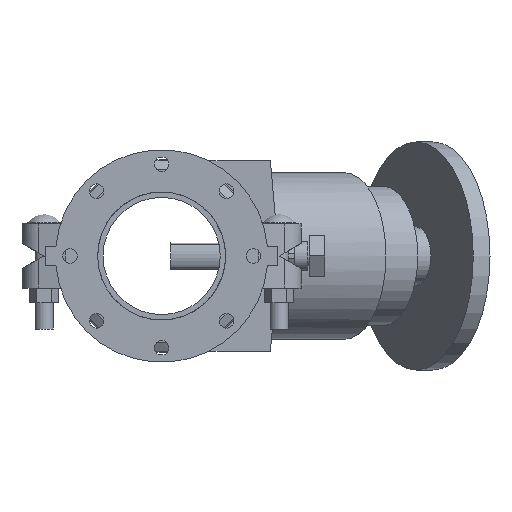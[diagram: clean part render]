
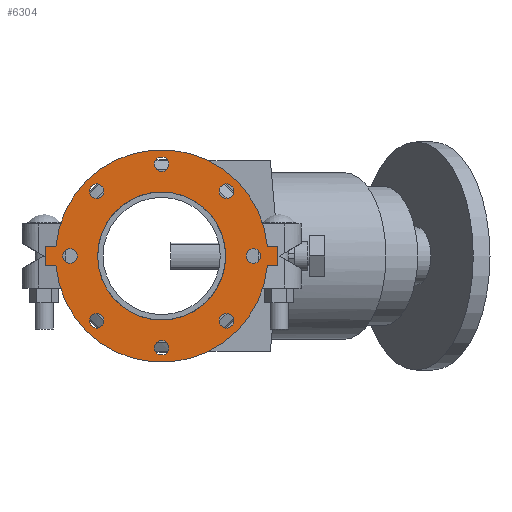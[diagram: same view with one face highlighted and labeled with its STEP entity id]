
A CAD part, front view. The second image highlights one B-rep face of the part: STEP entity #6304.
In plain terms, the highlighted planar face has unit normal (0, -1, 0) as drawn and (0, 0, 1) by its records, which use the part's own axes.
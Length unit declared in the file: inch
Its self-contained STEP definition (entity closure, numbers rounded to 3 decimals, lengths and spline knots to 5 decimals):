
#179=FACE_BOUND('',#821,.T.);
#180=FACE_BOUND('',#822,.T.);
#181=FACE_BOUND('',#823,.T.);
#182=FACE_BOUND('',#824,.T.);
#183=FACE_BOUND('',#825,.T.);
#184=FACE_BOUND('',#826,.T.);
#185=FACE_BOUND('',#827,.T.);
#186=FACE_BOUND('',#828,.T.);
#187=FACE_BOUND('',#829,.T.);
#254=PLANE('',#6873);
#465=FACE_OUTER_BOUND('',#820,.T.);
#820=EDGE_LOOP('',(#4105,#4106,#4107,#4108,#4109,#4110,#4111,#4112));
#821=EDGE_LOOP('',(#4113));
#822=EDGE_LOOP('',(#4114));
#823=EDGE_LOOP('',(#4115));
#824=EDGE_LOOP('',(#4116));
#825=EDGE_LOOP('',(#4117));
#826=EDGE_LOOP('',(#4118));
#827=EDGE_LOOP('',(#4119));
#828=EDGE_LOOP('',(#4120));
#829=EDGE_LOOP('',(#4121,#4122));
#1236=LINE('',#9652,#1702);
#1237=LINE('',#9655,#1703);
#1240=LINE('',#9660,#1706);
#1241=LINE('',#9663,#1707);
#1243=LINE('',#9666,#1709);
#1244=LINE('',#9668,#1710);
#1702=VECTOR('',#7682,0.3937);
#1703=VECTOR('',#7685,0.3937);
#1706=VECTOR('',#7690,0.3937);
#1707=VECTOR('',#7693,0.3937);
#1709=VECTOR('',#7697,0.3937);
#1710=VECTOR('',#7700,0.3937);
#2148=CIRCLE('',#6832,0.375);
#2150=CIRCLE('',#6835,0.375);
#2152=CIRCLE('',#6838,0.375);
#2154=CIRCLE('',#6841,0.375);
#2156=CIRCLE('',#6844,0.375);
#2158=CIRCLE('',#6847,0.375);
#2160=CIRCLE('',#6850,0.375);
#2162=CIRCLE('',#6853,0.375);
#2168=CIRCLE('',#6861,5.5);
#2169=CIRCLE('',#6863,3.3125);
#2170=CIRCLE('',#6864,3.3125);
#2171=CIRCLE('',#6866,5.5);
#2510=VERTEX_POINT('',#9563);
#2512=VERTEX_POINT('',#9569);
#2514=VERTEX_POINT('',#9575);
#2516=VERTEX_POINT('',#9581);
#2518=VERTEX_POINT('',#9587);
#2520=VERTEX_POINT('',#9593);
#2522=VERTEX_POINT('',#9599);
#2524=VERTEX_POINT('',#9605);
#2536=VERTEX_POINT('',#9632);
#2537=VERTEX_POINT('',#9634);
#2538=VERTEX_POINT('',#9638);
#2539=VERTEX_POINT('',#9640);
#2540=VERTEX_POINT('',#9644);
#2541=VERTEX_POINT('',#9646);
#2542=VERTEX_POINT('',#9650);
#2543=VERTEX_POINT('',#9654);
#2544=VERTEX_POINT('',#9658);
#2545=VERTEX_POINT('',#9662);
#3120=EDGE_CURVE('',#2510,#2510,#2148,.T.);
#3123=EDGE_CURVE('',#2512,#2512,#2150,.T.);
#3126=EDGE_CURVE('',#2514,#2514,#2152,.T.);
#3129=EDGE_CURVE('',#2516,#2516,#2154,.T.);
#3132=EDGE_CURVE('',#2518,#2518,#2156,.T.);
#3135=EDGE_CURVE('',#2520,#2520,#2158,.T.);
#3138=EDGE_CURVE('',#2522,#2522,#2160,.T.);
#3141=EDGE_CURVE('',#2524,#2524,#2162,.T.);
#3156=EDGE_CURVE('',#2536,#2537,#2168,.T.);
#3158=EDGE_CURVE('',#2539,#2538,#2169,.T.);
#3159=EDGE_CURVE('',#2538,#2539,#2170,.T.);
#3161=EDGE_CURVE('',#2541,#2540,#2171,.T.);
#3164=EDGE_CURVE('',#2537,#2542,#1236,.T.);
#3165=EDGE_CURVE('',#2543,#2541,#1237,.T.);
#3168=EDGE_CURVE('',#2540,#2544,#1240,.T.);
#3169=EDGE_CURVE('',#2545,#2536,#1241,.T.);
#3171=EDGE_CURVE('',#2544,#2545,#1243,.T.);
#3172=EDGE_CURVE('',#2542,#2543,#1244,.T.);
#4105=ORIENTED_EDGE('',*,*,#3168,.T.);
#4106=ORIENTED_EDGE('',*,*,#3171,.T.);
#4107=ORIENTED_EDGE('',*,*,#3169,.T.);
#4108=ORIENTED_EDGE('',*,*,#3156,.T.);
#4109=ORIENTED_EDGE('',*,*,#3164,.T.);
#4110=ORIENTED_EDGE('',*,*,#3172,.T.);
#4111=ORIENTED_EDGE('',*,*,#3165,.T.);
#4112=ORIENTED_EDGE('',*,*,#3161,.T.);
#4113=ORIENTED_EDGE('',*,*,#3120,.T.);
#4114=ORIENTED_EDGE('',*,*,#3123,.T.);
#4115=ORIENTED_EDGE('',*,*,#3126,.T.);
#4116=ORIENTED_EDGE('',*,*,#3129,.T.);
#4117=ORIENTED_EDGE('',*,*,#3132,.T.);
#4118=ORIENTED_EDGE('',*,*,#3135,.T.);
#4119=ORIENTED_EDGE('',*,*,#3138,.T.);
#4120=ORIENTED_EDGE('',*,*,#3141,.T.);
#4121=ORIENTED_EDGE('',*,*,#3158,.T.);
#4122=ORIENTED_EDGE('',*,*,#3159,.T.);
#6304=ADVANCED_FACE('',(#465,#179,#180,#181,#182,#183,#184,#185,#186,#187),
#254,.T.);
#6832=AXIS2_PLACEMENT_3D('',#9564,#7590,#7591);
#6835=AXIS2_PLACEMENT_3D('',#9570,#7597,#7598);
#6838=AXIS2_PLACEMENT_3D('',#9576,#7604,#7605);
#6841=AXIS2_PLACEMENT_3D('',#9582,#7611,#7612);
#6844=AXIS2_PLACEMENT_3D('',#9588,#7618,#7619);
#6847=AXIS2_PLACEMENT_3D('',#9594,#7625,#7626);
#6850=AXIS2_PLACEMENT_3D('',#9600,#7632,#7633);
#6853=AXIS2_PLACEMENT_3D('',#9606,#7639,#7640);
#6861=AXIS2_PLACEMENT_3D('',#9636,#7664,#7665);
#6863=AXIS2_PLACEMENT_3D('',#9641,#7669,#7670);
#6864=AXIS2_PLACEMENT_3D('',#9642,#7671,#7672);
#6866=AXIS2_PLACEMENT_3D('',#9647,#7676,#7677);
#6873=AXIS2_PLACEMENT_3D('',#9669,#7701,#7702);
#7590=DIRECTION('center_axis',(0.,0.,-1.));
#7591=DIRECTION('ref_axis',(-0.707,0.707,0.));
#7597=DIRECTION('center_axis',(0.,0.,-1.));
#7598=DIRECTION('ref_axis',(0.,1.,0.));
#7604=DIRECTION('center_axis',(0.,0.,-1.));
#7605=DIRECTION('ref_axis',(0.707,0.707,0.));
#7611=DIRECTION('center_axis',(0.,0.,-1.));
#7612=DIRECTION('ref_axis',(1.,0.,0.));
#7618=DIRECTION('center_axis',(0.,0.,-1.));
#7619=DIRECTION('ref_axis',(0.707,-0.707,0.));
#7625=DIRECTION('center_axis',(0.,0.,-1.));
#7626=DIRECTION('ref_axis',(0.,-1.,0.));
#7632=DIRECTION('center_axis',(0.,0.,-1.));
#7633=DIRECTION('ref_axis',(-0.707,-0.707,0.));
#7639=DIRECTION('center_axis',(0.,0.,-1.));
#7640=DIRECTION('ref_axis',(-1.,0.,0.));
#7664=DIRECTION('center_axis',(0.,0.,1.));
#7665=DIRECTION('ref_axis',(-1.,0.,0.));
#7669=DIRECTION('center_axis',(0.,0.,-1.));
#7670=DIRECTION('ref_axis',(-1.,0.,0.));
#7671=DIRECTION('center_axis',(0.,0.,-1.));
#7672=DIRECTION('ref_axis',(-1.,0.,0.));
#7676=DIRECTION('center_axis',(0.,0.,1.));
#7677=DIRECTION('ref_axis',(-1.,0.,0.));
#7682=DIRECTION('',(0.,1.,0.));
#7685=DIRECTION('',(0.,-1.,0.));
#7690=DIRECTION('',(0.,-1.,0.));
#7693=DIRECTION('',(0.,1.,0.));
#7697=DIRECTION('',(1.,0.,0.));
#7700=DIRECTION('',(-1.,0.,0.));
#7701=DIRECTION('center_axis',(0.,0.,1.));
#7702=DIRECTION('ref_axis',(1.,0.,0.));
#9563=CARTESIAN_POINT('',(-3.09359,3.09359,0.5));
#9564=CARTESIAN_POINT('Origin',(-3.35876,3.35876,0.5));
#9569=CARTESIAN_POINT('',(0.,4.375,0.5));
#9570=CARTESIAN_POINT('Origin',(0.,4.75,0.5));
#9575=CARTESIAN_POINT('',(3.09359,3.09359,0.5));
#9576=CARTESIAN_POINT('Origin',(3.35876,3.35876,0.5));
#9581=CARTESIAN_POINT('',(4.375,0.,0.5));
#9582=CARTESIAN_POINT('Origin',(4.75,0.,0.5));
#9587=CARTESIAN_POINT('',(3.09359,-3.09359,0.5));
#9588=CARTESIAN_POINT('Origin',(3.35876,-3.35876,0.5));
#9593=CARTESIAN_POINT('',(0.,-4.375,0.5));
#9594=CARTESIAN_POINT('Origin',(0.,-4.75,0.5));
#9599=CARTESIAN_POINT('',(-3.09359,-3.09359,0.5));
#9600=CARTESIAN_POINT('Origin',(-3.35876,-3.35876,0.5));
#9605=CARTESIAN_POINT('',(-4.375,0.,0.5));
#9606=CARTESIAN_POINT('Origin',(-4.75,0.,0.5));
#9632=CARTESIAN_POINT('',(0.5,-5.47723,0.5));
#9634=CARTESIAN_POINT('',(0.5,5.47723,0.5));
#9636=CARTESIAN_POINT('Origin',(0.,0.,0.5));
#9638=CARTESIAN_POINT('',(3.3125,0.,0.5));
#9640=CARTESIAN_POINT('',(0.5,3.27455,0.5));
#9641=CARTESIAN_POINT('Origin',(0.,0.,0.5));
#9642=CARTESIAN_POINT('Origin',(0.,0.,0.5));
#9644=CARTESIAN_POINT('',(-0.5,-5.47723,0.5));
#9646=CARTESIAN_POINT('',(-0.5,5.47723,0.5));
#9647=CARTESIAN_POINT('Origin',(0.,0.,0.5));
#9650=CARTESIAN_POINT('',(0.5,6.,0.5));
#9652=CARTESIAN_POINT('',(0.5,6.,0.5));
#9654=CARTESIAN_POINT('',(-0.5,6.,0.5));
#9655=CARTESIAN_POINT('',(-0.5,-6.,0.5));
#9658=CARTESIAN_POINT('',(-0.5,-6.,0.5));
#9660=CARTESIAN_POINT('',(-0.5,-6.,0.5));
#9662=CARTESIAN_POINT('',(0.5,-6.,0.5));
#9663=CARTESIAN_POINT('',(0.5,6.,0.5));
#9666=CARTESIAN_POINT('',(0.5,-6.,0.5));
#9668=CARTESIAN_POINT('',(-0.5,6.,0.5));
#9669=CARTESIAN_POINT('Origin',(0.,0.,0.5));
